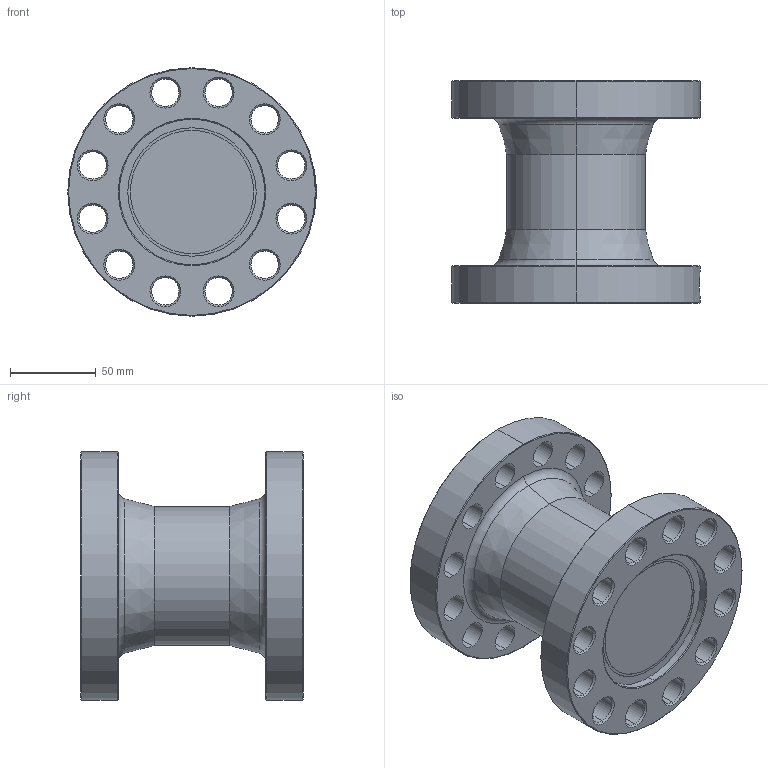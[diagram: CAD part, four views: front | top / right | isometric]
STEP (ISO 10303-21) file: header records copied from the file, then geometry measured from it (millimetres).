
FILE_DESCRIPTION (( 'STEP AP203' ), '1' );
FILE_NAME ('LCF10-30t.STEP', '2024-07-16T08:02:09', ( '' ), ( '' ), 'SwSTEP 2.0', 'SolidWorks 2019', '' );
FILE_SCHEMA (( 'CONFIG_CONTROL_DESIGN' ));
Length unit declared in the file: millimetre
Products named in the file (1): LCF10-30t
Bounding box: 145 x 130 x 145 mm (x, y, z)
Volume: 1037364.8 mm3; surface area: 114195.7 mm2
Topology: 1 solids, 1 shells, 184 faces, 419 edges, 254 vertices
Faces by surface type: cylinder 85, cone 70, plane 22, torus 7
Entity records: 5466 total; most frequent: DIRECTION 1036, CARTESIAN_POINT 953, ORIENTED_EDGE 838, AXIS2_PLACEMENT_3D 436, EDGE_CURVE 419, VERTEX_POINT 254, CIRCLE 251, EDGE_LOOP 249
